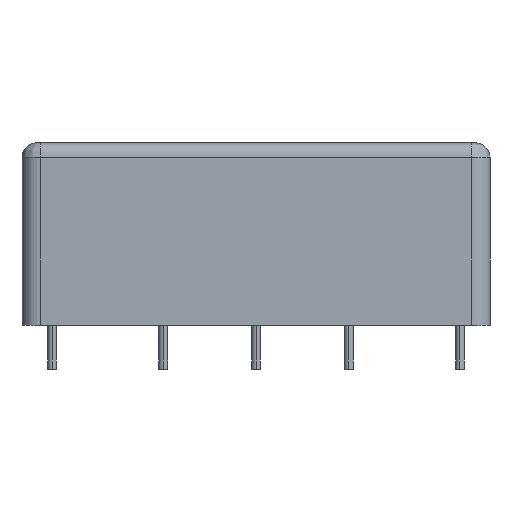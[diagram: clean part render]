
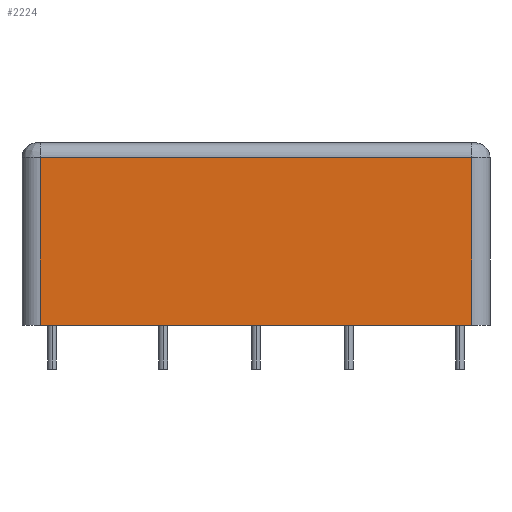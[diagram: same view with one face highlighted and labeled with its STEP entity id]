
A CAD part, left-side view. The second image highlights one B-rep face of the part: STEP entity #2224.
In plain terms, the highlighted planar face has unit normal (-1, 0, 0).
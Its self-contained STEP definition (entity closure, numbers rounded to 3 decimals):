
#54=DIRECTION('',(0.,-1.,0.));
#55=VECTOR('',#54,59.1);
#56=CARTESIAN_POINT('',(-44.75,29.55,0.));
#57=LINE('',#56,#55);
#318=DIRECTION('',(0.,0.,1.));
#319=VECTOR('',#318,23.);
#320=CARTESIAN_POINT('',(-44.75,-29.55,0.));
#321=LINE('',#320,#319);
#322=DIRECTION('',(0.,-1.,0.));
#323=VECTOR('',#322,59.1);
#324=CARTESIAN_POINT('',(-44.75,29.55,23.));
#325=LINE('',#324,#323);
#326=DIRECTION('',(0.,0.,1.));
#327=VECTOR('',#326,23.);
#328=CARTESIAN_POINT('',(-44.75,29.55,0.));
#329=LINE('',#328,#327);
#1430=CARTESIAN_POINT('',(-44.75,29.55,0.));
#1432=VERTEX_POINT('',#1430);
#1433=CARTESIAN_POINT('',(-44.75,-29.55,0.));
#1434=VERTEX_POINT('',#1433);
#1449=CARTESIAN_POINT('',(-44.75,-29.55,23.));
#1451=VERTEX_POINT('',#1449);
#1475=CARTESIAN_POINT('',(-44.75,29.55,23.));
#1476=VERTEX_POINT('',#1475);
#2212=CARTESIAN_POINT('',(-44.75,29.55,0.));
#2213=DIRECTION('',(-1.,0.,0.));
#2214=DIRECTION('',(0.,-1.,0.));
#2215=AXIS2_PLACEMENT_3D('',#2212,#2213,#2214);
#2216=PLANE('',#2215);
#2218=ORIENTED_EDGE('',*,*,#2217,.T.);
#2219=ORIENTED_EDGE('',*,*,#2207,.F.);
#2220=ORIENTED_EDGE('',*,*,#1872,.F.);
#2221=ORIENTED_EDGE('',*,*,#1938,.T.);
#2222=EDGE_LOOP('',(#2218,#2219,#2220,#2221));
#2223=FACE_OUTER_BOUND('',#2222,.F.);
#1872=EDGE_CURVE('',#1432,#1434,#57,.T.);
#1938=EDGE_CURVE('',#1432,#1476,#329,.T.);
#2207=EDGE_CURVE('',#1434,#1451,#321,.T.);
#2217=EDGE_CURVE('',#1476,#1451,#325,.T.);
#2224=ADVANCED_FACE('',(#2223),#2216,.T.);
